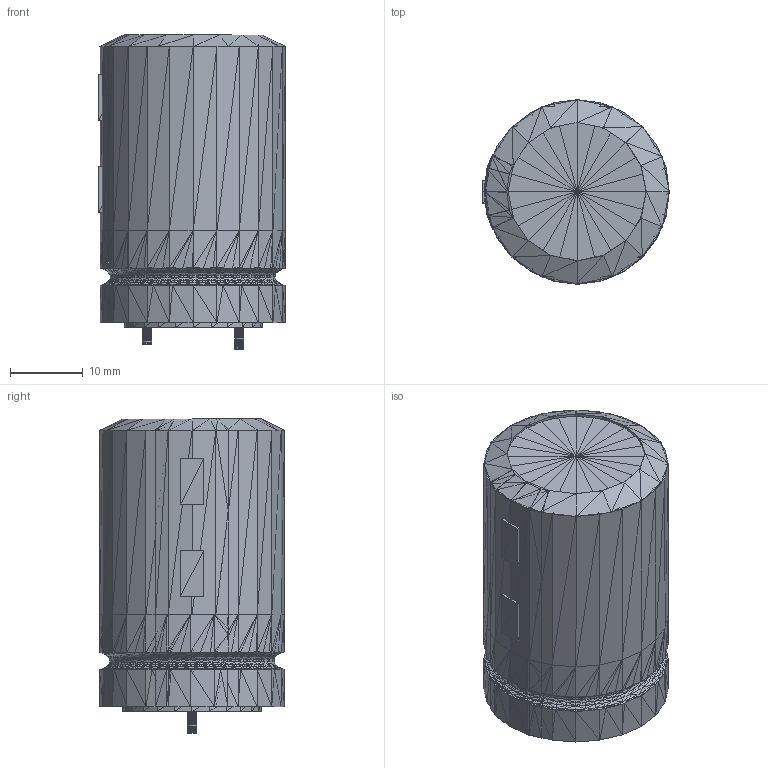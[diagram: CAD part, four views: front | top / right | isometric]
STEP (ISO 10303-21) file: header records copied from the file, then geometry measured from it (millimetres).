
FILE_DESCRIPTION(('HOOPS Exchange Step'),'2;1');
FILE_NAME('***.stp');
FILE_SCHEMA( ('AP242_MANAGED_MODEL_BASED_3D_ENGINEERING_MIM_LF {1 0 10303 442 1 1 4 }') );
Length unit declared in the file: inch
Products named in the file (12): RADPOLCAPXLG_2; RADPOLCAPXLG_3; RADPOLCAPXLG_4; RADPOLCAPXLG_5; RADPOLCAPXLG_6; RADPOLCAPXLG_7; RADPOLCAPXLG_8; RADPOLCAPXLG_9; RADPOLCAPXLG_10; RADPOLCAPXLG_11; RADPOLCAPXLG_12; RADPOLCAPXLG
Assembly tree (11 placements, depth 2):
  RADPOLCAPXLG
    RADPOLCAPXLG_2
    RADPOLCAPXLG_3
    RADPOLCAPXLG_4
    RADPOLCAPXLG_5
    RADPOLCAPXLG_6
    RADPOLCAPXLG_7
    RADPOLCAPXLG_8
    RADPOLCAPXLG_9
    RADPOLCAPXLG_10
    RADPOLCAPXLG_11
    RADPOLCAPXLG_12
Bounding box: 25.72 x 25.41 x 43.31 mm (x, y, z)
Volume: 20134.2 mm3; surface area: 8162.9 mm2
Topology: 10 solids, 12 shells, 2233 faces, 3360 edges, 1147 vertices
Faces by surface type: plane 2233
Entity records: 44183 total; most frequent: DIRECTION 7874, CARTESIAN_POINT 6764, ORIENTED_EDGE 6699, VECTOR 3360, LINE 3360, EDGE_CURVE 3360, AXIS2_PLACEMENT_3D 2257, PLANE 2233
